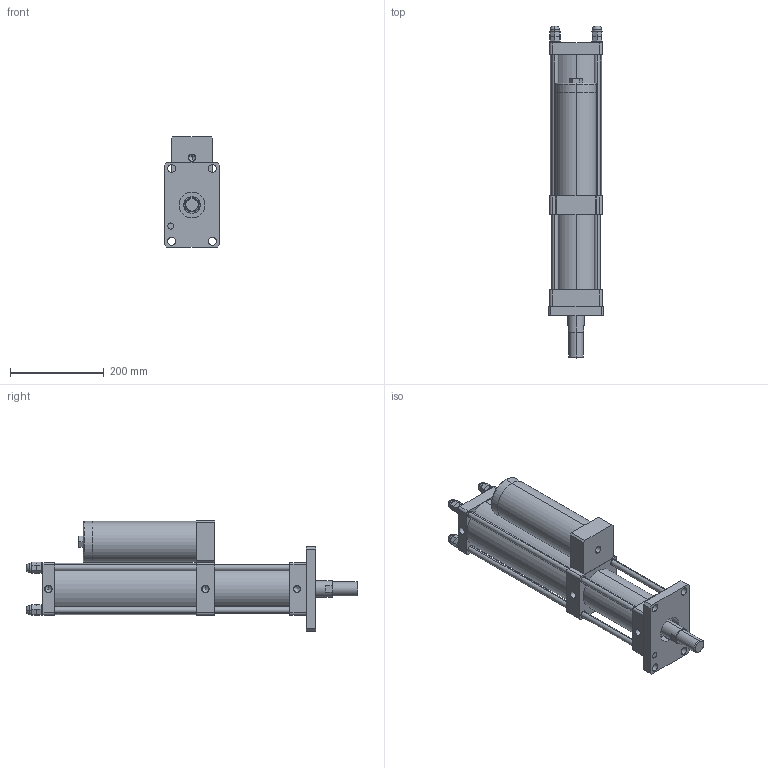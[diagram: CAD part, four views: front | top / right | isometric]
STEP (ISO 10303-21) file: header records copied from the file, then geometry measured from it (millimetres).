
FILE_DESCRIPTION (( 'STEP AP203' ), '1' );
FILE_NAME ('CPT-80-50-15-8T.STEP', '2016-03-11T03:03:59', ( 'WIN' ), ( '' ), 'SwSTEP 2.0', 'SolidWorks 2014', '' );
FILE_SCHEMA (( 'CONFIG_CONTROL_DESIGN' ));
Length unit declared in the file: millimetre
Products named in the file (1): CPT-80-50-15-8T
Bounding box: 118 x 707.07 x 235 mm (x, y, z)
Volume: 6101875.9 mm3; surface area: 651543.1 mm2
Topology: 17 solids, 17 shells, 388 faces, 955 edges, 556 vertices
Faces by surface type: plane 180, cylinder 90, bspline 48, torus 46, cone 24
Entity records: 12531 total; most frequent: CARTESIAN_POINT 3658, DIRECTION 1864, ORIENTED_EDGE 1778, EDGE_CURVE 889, AXIS2_PLACEMENT_3D 682, VERTEX_POINT 556, LINE 500, VECTOR 500
